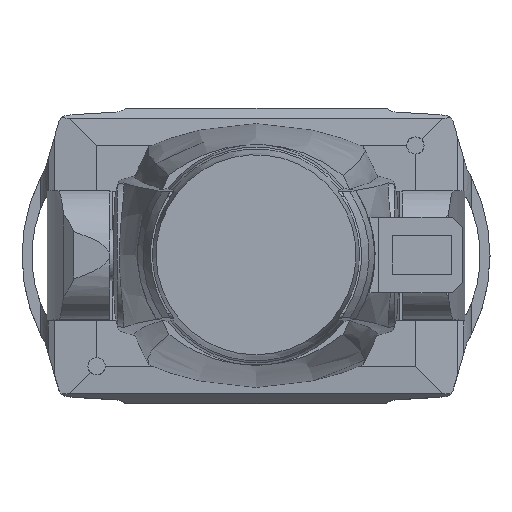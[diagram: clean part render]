
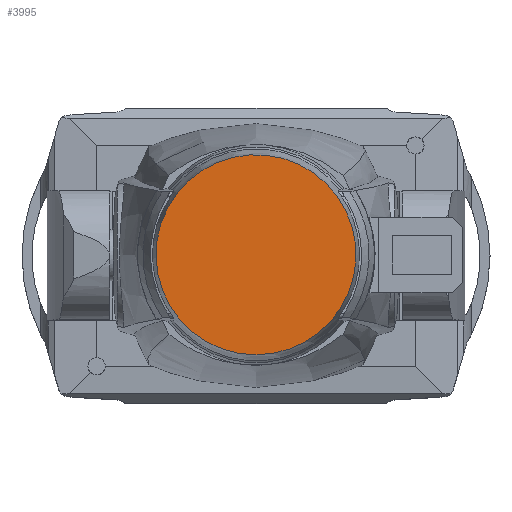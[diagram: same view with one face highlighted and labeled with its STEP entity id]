
A CAD part, top view. The second image highlights one B-rep face of the part: STEP entity #3995.
In plain terms, the highlighted planar face has unit normal (0, 0, 1) as drawn and (0, 1, 0) by its records, which use the part's own axes.
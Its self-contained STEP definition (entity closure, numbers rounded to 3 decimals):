
#323=CIRCLE('',#4382,97.865);
#1915=ORIENTED_EDGE('',*,*,#2605,.T.);
#2605=EDGE_CURVE('',#3041,#3041,#323,.T.);
#3041=VERTEX_POINT('',#12640);
#3383=EDGE_LOOP('',(#1915));
#3650=FACE_BOUND('',#3383,.T.);
#3787=PLANE('',#4381);
#3995=ADVANCED_FACE('',(#3650),#3787,.T.);
#4381=AXIS2_PLACEMENT_3D('',#12638,#5268,#5269);
#4382=AXIS2_PLACEMENT_3D('',#12639,#5270,#5271);
#5268=DIRECTION('',(0.,1.,0.));
#5269=DIRECTION('',(0.,0.,-1.));
#5270=DIRECTION('',(0.,1.,0.));
#5271=DIRECTION('',(0.,0.,-1.));
#12638=CARTESIAN_POINT('',(0.,417.25,89.109));
#12639=CARTESIAN_POINT('',(0.,417.25,0.));
#12640=CARTESIAN_POINT('',(0.,417.25,-97.865));
